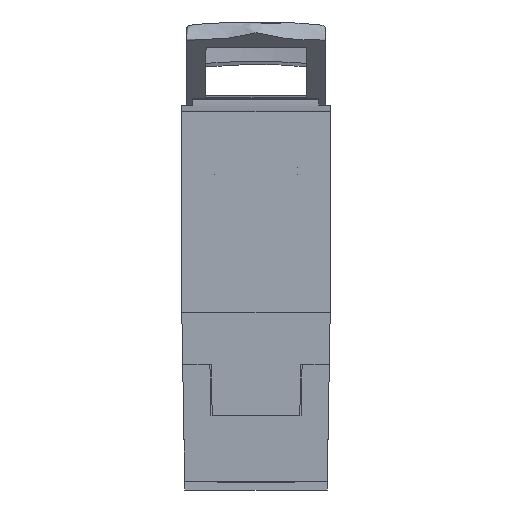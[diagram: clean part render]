
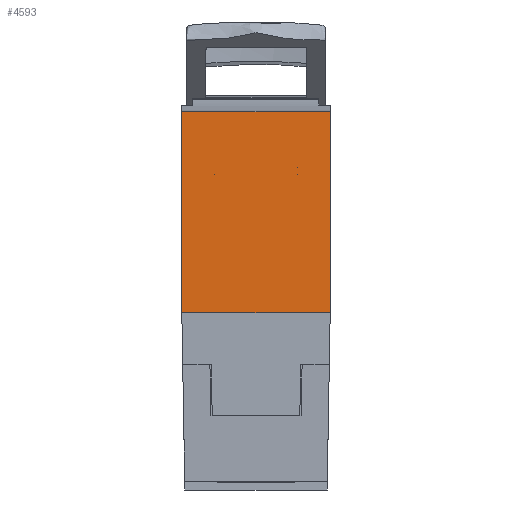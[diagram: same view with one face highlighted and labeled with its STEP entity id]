
A CAD part, left-side view. The second image highlights one B-rep face of the part: STEP entity #4593.
In plain terms, the highlighted planar face has unit normal (-1, 0, 0).
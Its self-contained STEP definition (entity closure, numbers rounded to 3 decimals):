
#458=CIRCLE('',#16168,1.15);
#459=CIRCLE('',#16169,1.15);
#460=CIRCLE('',#16170,1.15);
#770=PLANE('',#16171);
#1815=LINE('',#19241,#2897);
#2042=LINE('',#21375,#3124);
#2592=LINE('',#62551,#3682);
#2615=LINE('',#62834,#3705);
#2620=LINE('',#62856,#3710);
#2621=LINE('',#62858,#3711);
#2622=LINE('',#62862,#3712);
#2897=VECTOR('',#16410,1.);
#3124=VECTOR('',#16715,1.);
#3682=VECTOR('',#17883,1.);
#3705=VECTOR('',#17960,1.);
#3710=VECTOR('',#17971,1.);
#3711=VECTOR('',#17974,1.);
#3712=VECTOR('',#17977,1.);
#4593=ADVANCED_FACE('',(#5072,#5073,#5074,#5075),#770,.F.);
#5072=FACE_BOUND('',#5800,.T.);
#5073=FACE_BOUND('',#5801,.T.);
#5074=FACE_BOUND('',#5802,.T.);
#5075=FACE_BOUND('',#5803,.T.);
#5800=EDGE_LOOP('',(#9361,#9362,#9363,#9364));
#5801=EDGE_LOOP('',(#9365,#9366));
#5802=EDGE_LOOP('',(#9367,#9368));
#5803=EDGE_LOOP('',(#9369,#9370));
#9361=ORIENTED_EDGE('',*,*,#12374,.F.);
#9362=ORIENTED_EDGE('',*,*,#12742,.F.);
#9363=ORIENTED_EDGE('',*,*,#14086,.T.);
#9364=ORIENTED_EDGE('',*,*,#14034,.T.);
#9365=ORIENTED_EDGE('',*,*,#14079,.F.);
#9366=ORIENTED_EDGE('',*,*,#14087,.T.);
#9367=ORIENTED_EDGE('',*,*,#14088,.T.);
#9368=ORIENTED_EDGE('',*,*,#14089,.T.);
#9369=ORIENTED_EDGE('',*,*,#14090,.T.);
#9370=ORIENTED_EDGE('',*,*,#14091,.T.);
#10835=VERTEX_POINT('',#19240);
#10836=VERTEX_POINT('',#19242);
#11164=VERTEX_POINT('',#21376);
#11948=VERTEX_POINT('',#62552);
#11976=VERTEX_POINT('',#62835);
#11977=VERTEX_POINT('',#62836);
#11982=VERTEX_POINT('',#62859);
#11983=VERTEX_POINT('',#62860);
#11984=VERTEX_POINT('',#62863);
#11985=VERTEX_POINT('',#62864);
#12374=EDGE_CURVE('',#10835,#10836,#1815,.T.);
#12742=EDGE_CURVE('',#11164,#10835,#2042,.T.);
#14034=EDGE_CURVE('',#11948,#10836,#2592,.T.);
#14079=EDGE_CURVE('',#11976,#11977,#2615,.T.);
#14086=EDGE_CURVE('',#11164,#11948,#2620,.T.);
#14087=EDGE_CURVE('',#11976,#11977,#458,.T.);
#14088=EDGE_CURVE('',#11982,#11983,#2621,.T.);
#14089=EDGE_CURVE('',#11983,#11982,#459,.T.);
#14090=EDGE_CURVE('',#11984,#11985,#2622,.T.);
#14091=EDGE_CURVE('',#11985,#11984,#460,.T.);
#16168=AXIS2_PLACEMENT_3D('',#62857,#17972,#17973);
#16169=AXIS2_PLACEMENT_3D('',#62861,#17975,#17976);
#16170=AXIS2_PLACEMENT_3D('',#62865,#17978,#17979);
#16171=AXIS2_PLACEMENT_3D('',#62866,#17980,#17981);
#16410=DIRECTION('',(0.,0.,1.));
#16715=DIRECTION('',(0.,1.,0.));
#17883=DIRECTION('',(0.,1.,0.));
#17960=DIRECTION('',(0.,1.,0.017));
#17971=DIRECTION('',(0.,0.,1.));
#17972=DIRECTION('',(1.,0.,0.));
#17973=DIRECTION('',(0.,0.,-1.));
#17974=DIRECTION('',(0.,1.,-0.017));
#17975=DIRECTION('',(1.,0.,0.));
#17976=DIRECTION('',(0.,0.,-1.));
#17977=DIRECTION('',(0.,-1.,0.017));
#17978=DIRECTION('',(1.,0.,0.));
#17979=DIRECTION('',(0.,0.,-1.));
#17980=DIRECTION('',(1.,0.,0.));
#17981=DIRECTION('',(0.,0.,1.));
#19240=CARTESIAN_POINT('',(-150.,24.9,34.5));
#19241=CARTESIAN_POINT('',(-150.,24.9,104.));
#19242=CARTESIAN_POINT('',(-150.,24.9,101.846));
#21375=CARTESIAN_POINT('',(-150.,-24.9,34.5));
#21376=CARTESIAN_POINT('',(-150.,-24.9,34.5));
#62551=CARTESIAN_POINT('',(-150.,16.399,101.846));
#62552=CARTESIAN_POINT('',(-150.,-24.9,101.846));
#62834=CARTESIAN_POINT('',(-150.,25.291,81.587));
#62835=CARTESIAN_POINT('',(-150.,-14.05,80.9));
#62836=CARTESIAN_POINT('',(-150.,-14.01,80.901));
#62856=CARTESIAN_POINT('',(-150.,-24.9,104.));
#62857=CARTESIAN_POINT('',(-150.,-14.05,82.05));
#62858=CARTESIAN_POINT('',(-150.,-14.05,83.2));
#62859=CARTESIAN_POINT('',(-150.,-14.05,83.2));
#62860=CARTESIAN_POINT('',(-150.,-14.01,83.199));
#62861=CARTESIAN_POINT('',(-150.,-14.05,82.05));
#62862=CARTESIAN_POINT('',(-150.,14.05,80.9));
#62863=CARTESIAN_POINT('',(-150.,14.05,80.9));
#62864=CARTESIAN_POINT('',(-150.,14.01,80.901));
#62865=CARTESIAN_POINT('',(-150.,14.05,82.05));
#62866=CARTESIAN_POINT('',(-150.,24.9,104.));
